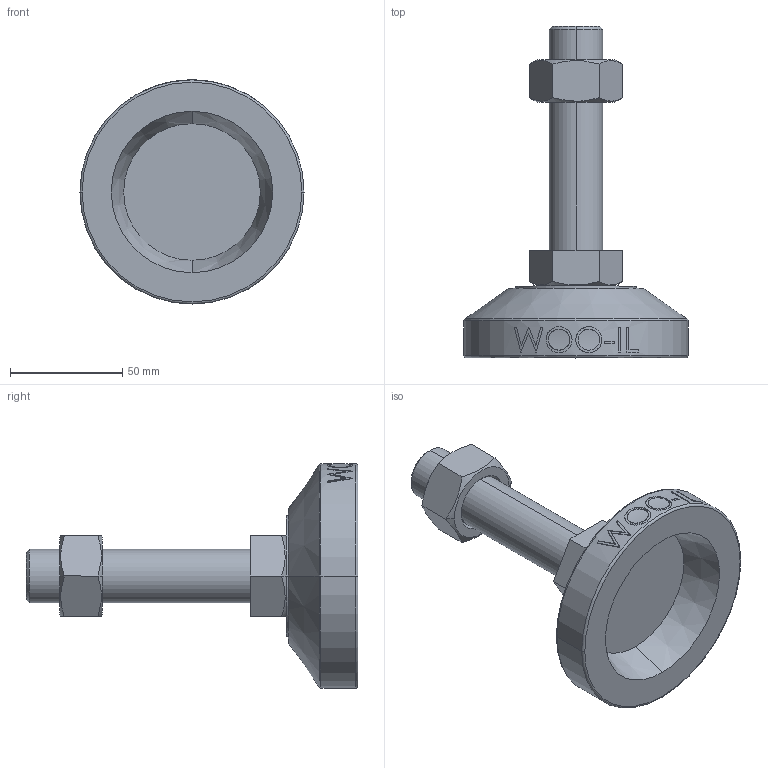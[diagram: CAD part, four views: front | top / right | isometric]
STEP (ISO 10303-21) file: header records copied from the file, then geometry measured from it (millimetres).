
FILE_DESCRIPTION (( 'STEP AP214' ), '1' );
FILE_NAME ('PAD-B100-M24-100.step', '2021-01-26T23:42:27', ( '' ), ( '' ), 'SwSTEP 2.0', 'SolidWorks 2019', '' );
FILE_SCHEMA (( 'AUTOMOTIVE_DESIGN' ));
Length unit declared in the file: millimetre
Products named in the file (2): PAD-B100-M24-100
Bounding box: 100 x 148 x 100 mm (x, y, z)
Volume: 223795.1 mm3; surface area: 41297 mm2
Topology: 3 solids, 3 shells, 100 faces, 231 edges, 148 vertices
Faces by surface type: plane 48, cylinder 16, cone 16, bspline 16, torus 4
Entity records: 4544 total; most frequent: CARTESIAN_POINT 2333, ORIENTED_EDGE 462, DIRECTION 403, EDGE_CURVE 231, AXIS2_PLACEMENT_3D 152, VERTEX_POINT 148, EDGE_LOOP 113, FACE_OUTER_BOUND 100
